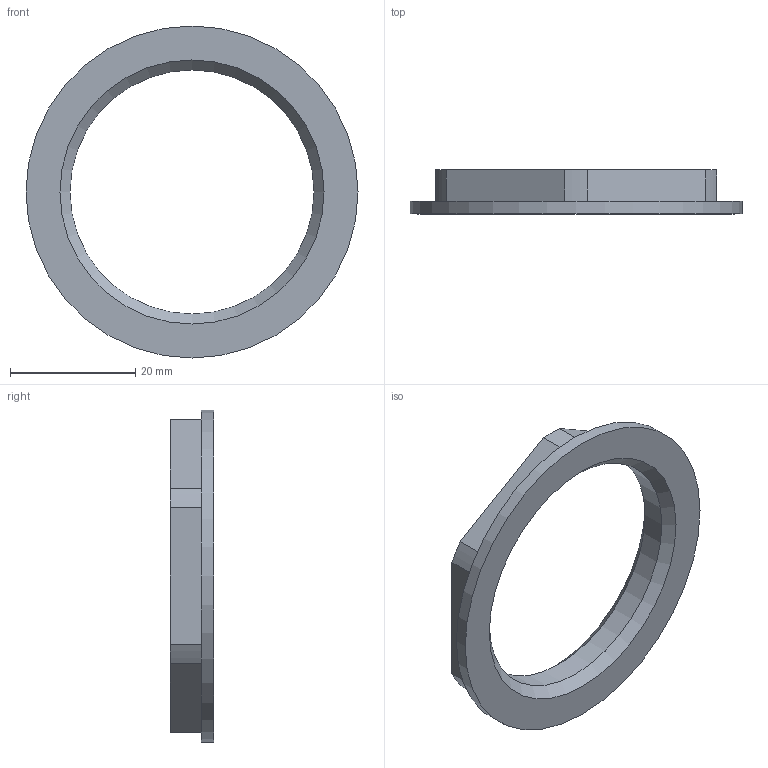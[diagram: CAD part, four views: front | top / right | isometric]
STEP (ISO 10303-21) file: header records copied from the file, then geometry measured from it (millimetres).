
FILE_DESCRIPTION(('STEP AP203'), '1');
FILE_NAME('覆.758414.004 - VTr.655.N.0007 扻艜謾骫罻', '2024-07-12T08:40:49', ('Boss'), (''), 'C3D Converter', 'C3D Toolkit', '');
FILE_SCHEMA(('CONFIG_CONTROL_DESIGN'));
Length unit declared in the file: millimetre
Products named in the file (1): ВР.758414.004
Bounding box: 53 x 7 x 53 mm (x, y, z)
Volume: 4464.9 mm3; surface area: 3758.5 mm2
Topology: 1 solids, 1 shells, 19 faces, 46 edges, 30 vertices
Faces by surface type: plane 9, cylinder 8, cone 2
Full cylindrical faces by diameter (mm): 38.953 x1, 53 x1
Entity records: 577 total; most frequent: DIRECTION 100, CARTESIAN_POINT 92, ORIENTED_EDGE 84, EDGE_CURVE 42, AXIS2_PLACEMENT_3D 38, VERTEX_POINT 30, EDGE_LOOP 26, LINE 24
